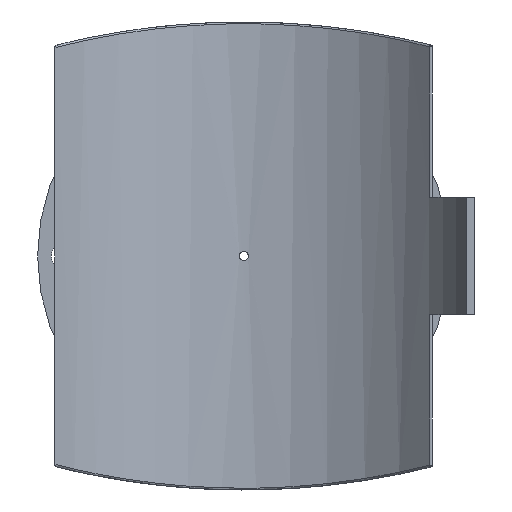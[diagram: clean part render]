
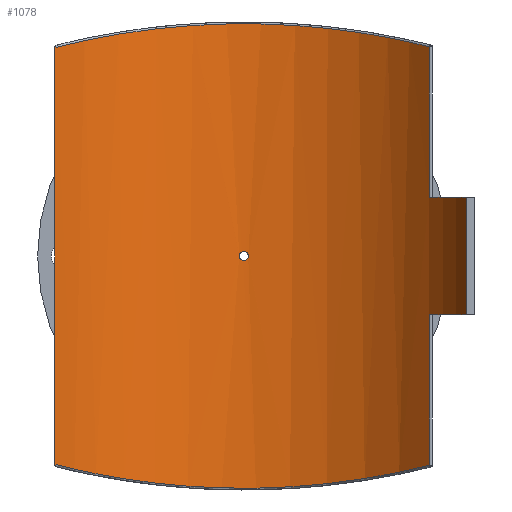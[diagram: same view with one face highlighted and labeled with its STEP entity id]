
A CAD part, front view. The second image highlights one B-rep face of the part: STEP entity #1078.
In plain terms, the highlighted cylindrical face has radius 280 mm (diameter 560 mm), a partial arc.
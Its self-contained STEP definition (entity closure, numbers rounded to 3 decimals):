
#55=FACE_BOUND('',#355,.T.);
#109=B_SPLINE_CURVE_WITH_KNOTS('',3,(#2219,#2220,#2221,#2222,#2223,#2224,
#2225,#2226,#2227,#2228),.UNSPECIFIED.,.F.,.F.,(4,1,1,1,1,1,1,4),(-56.784,
-49.813,-42.842,-35.871,-28.9,
-21.929,-14.958,-7.987),.UNSPECIFIED.);
#110=B_SPLINE_CURVE_WITH_KNOTS('',3,(#2237,#2238,#2239,#2240,#2241,#2242,
#2243,#2244,#2245,#2246),.UNSPECIFIED.,.F.,.F.,(4,1,1,1,1,1,1,4),(-54.351,
-47.38,-40.409,-33.438,-26.467,
-19.496,-12.525,-5.554),.UNSPECIFIED.);
#111=B_SPLINE_CURVE_WITH_KNOTS('',3,(#2249,#2250,#2251,#2252,#2253,#2254,
#2255,#2256,#2257,#2258),.UNSPECIFIED.,.F.,.F.,(4,2,2,2,4),(0.,0.196,
0.392,0.588,0.784),.UNSPECIFIED.);
#112=B_SPLINE_CURVE_WITH_KNOTS('',3,(#2259,#2260,#2261,#2262,#2263,#2264,
#2265,#2266,#2267,#2268,#2269,#2270,#2271,#2272,#2273,#2274,#2275,#2276,
#2277,#2278,#2279,#2280,#2281,#2282,#2283,#2284),.UNSPECIFIED.,.F.,.F.,
(4,2,2,2,2,2,2,2,2,2,2,2,4),(0.784,0.979,1.175,
1.371,1.567,1.763,1.959,2.155,
2.351,2.546,2.742,2.938,3.134),
 .UNSPECIFIED.);
#133=LINE('',#1615,#184);
#144=LINE('',#1907,#195);
#151=LINE('',#2233,#202);
#152=LINE('',#2236,#203);
#184=VECTOR('',#1292,10.);
#195=VECTOR('',#1331,10.);
#202=VECTOR('',#1368,10.);
#203=VECTOR('',#1371,10.);
#244=CYLINDRICAL_SURFACE('',#1175,280.);
#288=FACE_OUTER_BOUND('',#354,.T.);
#354=EDGE_LOOP('',(#839,#840,#841,#842,#843,#844,#845,#846));
#355=EDGE_LOOP('',(#847,#848));
#449=CIRCLE('',#1176,280.);
#450=CIRCLE('',#1177,280.);
#510=VERTEX_POINT('',#1606);
#513=VERTEX_POINT('',#1613);
#533=VERTEX_POINT('',#1900);
#536=VERTEX_POINT('',#1905);
#549=VERTEX_POINT('',#2199);
#550=VERTEX_POINT('',#2230);
#551=VERTEX_POINT('',#2232);
#552=VERTEX_POINT('',#2235);
#553=VERTEX_POINT('',#2247);
#554=VERTEX_POINT('',#2248);
#613=EDGE_CURVE('',#513,#510,#133,.T.);
#643=EDGE_CURVE('',#536,#533,#144,.T.);
#666=EDGE_CURVE('',#549,#536,#109,.T.);
#667=EDGE_CURVE('',#550,#513,#449,.T.);
#668=EDGE_CURVE('',#550,#551,#151,.T.);
#669=EDGE_CURVE('',#533,#551,#450,.T.);
#670=EDGE_CURVE('',#552,#549,#152,.T.);
#671=EDGE_CURVE('',#510,#552,#110,.T.);
#672=EDGE_CURVE('',#553,#554,#111,.T.);
#673=EDGE_CURVE('',#554,#553,#112,.T.);
#839=ORIENTED_EDGE('',*,*,#667,.F.);
#840=ORIENTED_EDGE('',*,*,#668,.T.);
#841=ORIENTED_EDGE('',*,*,#669,.F.);
#842=ORIENTED_EDGE('',*,*,#643,.F.);
#843=ORIENTED_EDGE('',*,*,#666,.F.);
#844=ORIENTED_EDGE('',*,*,#670,.F.);
#845=ORIENTED_EDGE('',*,*,#671,.F.);
#846=ORIENTED_EDGE('',*,*,#613,.F.);
#847=ORIENTED_EDGE('',*,*,#672,.T.);
#848=ORIENTED_EDGE('',*,*,#673,.T.);
#1078=ADVANCED_FACE('',(#288,#55),#244,.F.);
#1175=AXIS2_PLACEMENT_3D('',#2229,#1364,#1365);
#1176=AXIS2_PLACEMENT_3D('',#2231,#1366,#1367);
#1177=AXIS2_PLACEMENT_3D('',#2234,#1369,#1370);
#1292=DIRECTION('',(0.,0.,-1.));
#1331=DIRECTION('',(0.,0.,-1.));
#1364=DIRECTION('center_axis',(0.,0.,1.));
#1365=DIRECTION('ref_axis',(-1.,0.,0.));
#1366=DIRECTION('center_axis',(0.,0.,1.));
#1367=DIRECTION('ref_axis',(-0.9,-0.436,0.));
#1368=DIRECTION('',(0.,0.,1.));
#1369=DIRECTION('center_axis',(0.,0.,-1.));
#1370=DIRECTION('ref_axis',(-0.9,-0.436,0.));
#1371=DIRECTION('',(0.,0.,1.));
#1606=CARTESIAN_POINT('',(210.248,184.921,-236.94));
#1613=CARTESIAN_POINT('',(210.248,184.921,-66.25));
#1615=CARTESIAN_POINT('',(210.248,184.921,0.));
#1900=CARTESIAN_POINT('',(210.248,184.921,66.25));
#1905=CARTESIAN_POINT('',(210.248,184.921,236.94));
#1907=CARTESIAN_POINT('',(210.248,184.921,0.));
#2199=CARTESIAN_POINT('',(-213.75,180.862,236.051));
#2219=CARTESIAN_POINT('Ctrl Pts',(-213.75,180.862,236.051));
#2220=CARTESIAN_POINT('Ctrl Pts',(-199.044,198.242,239.818));
#2221=CARTESIAN_POINT('Ctrl Pts',(-165.408,229.374,247.602));
#2222=CARTESIAN_POINT('Ctrl Pts',(-104.901,262.661,257.41));
#2223=CARTESIAN_POINT('Ctrl Pts',(-37.627,280.354,263.109));
#2224=CARTESIAN_POINT('Ctrl Pts',(32.179,281.036,263.337));
#2225=CARTESIAN_POINT('Ctrl Pts',(99.815,264.637,258.029));
#2226=CARTESIAN_POINT('Ctrl Pts',(160.985,232.503,248.472));
#2227=CARTESIAN_POINT('Ctrl Pts',(195.214,202.014,240.724));
#2228=CARTESIAN_POINT('Ctrl Pts',(210.248,184.921,236.94));
#2229=CARTESIAN_POINT('Origin',(0.,0.,0.));
#2230=CARTESIAN_POINT('',(252.016,122.016,-66.25));
#2231=CARTESIAN_POINT('Origin',(0.,0.,
-66.25));
#2232=CARTESIAN_POINT('',(252.016,122.016,66.25));
#2233=CARTESIAN_POINT('',(252.016,122.016,0.));
#2234=CARTESIAN_POINT('Origin',(0.,0.,
66.25));
#2235=CARTESIAN_POINT('',(-213.75,180.862,-236.051));
#2236=CARTESIAN_POINT('',(-213.75,180.862,0.));
#2237=CARTESIAN_POINT('Ctrl Pts',(210.248,184.921,-236.94));
#2238=CARTESIAN_POINT('Ctrl Pts',(195.214,202.014,-240.724));
#2239=CARTESIAN_POINT('Ctrl Pts',(160.985,232.503,-248.472));
#2240=CARTESIAN_POINT('Ctrl Pts',(99.816,264.638,-258.031));
#2241=CARTESIAN_POINT('Ctrl Pts',(32.179,281.034,-263.335));
#2242=CARTESIAN_POINT('Ctrl Pts',(-37.628,280.356,-263.111));
#2243=CARTESIAN_POINT('Ctrl Pts',(-104.9,262.659,-257.409));
#2244=CARTESIAN_POINT('Ctrl Pts',(-165.409,229.374,-247.602));
#2245=CARTESIAN_POINT('Ctrl Pts',(-199.044,198.242,-239.818));
#2246=CARTESIAN_POINT('Ctrl Pts',(-213.75,180.862,-236.051));
#2247=CARTESIAN_POINT('',(5.2,279.952,0.));
#2248=CARTESIAN_POINT('',(0.,280.,-5.2));
#2249=CARTESIAN_POINT('Ctrl Pts',(5.2,279.952,0.));
#2250=CARTESIAN_POINT('Ctrl Pts',(5.2,279.952,-0.653));
#2251=CARTESIAN_POINT('Ctrl Pts',(5.07,279.954,-1.349));
#2252=CARTESIAN_POINT('Ctrl Pts',(4.539,279.963,-2.631));
#2253=CARTESIAN_POINT('Ctrl Pts',(4.139,279.97,-3.215));
#2254=CARTESIAN_POINT('Ctrl Pts',(3.215,279.982,-4.139));
#2255=CARTESIAN_POINT('Ctrl Pts',(2.631,279.988,-4.539));
#2256=CARTESIAN_POINT('Ctrl Pts',(1.349,279.997,-5.07));
#2257=CARTESIAN_POINT('Ctrl Pts',(0.653,280.,-5.2));
#2258=CARTESIAN_POINT('Ctrl Pts',(0.,280.,-5.2));
#2259=CARTESIAN_POINT('Ctrl Pts',(0.,280.,-5.2));
#2260=CARTESIAN_POINT('Ctrl Pts',(-0.653,280.,-5.2));
#2261=CARTESIAN_POINT('Ctrl Pts',(-1.349,279.997,-5.07));
#2262=CARTESIAN_POINT('Ctrl Pts',(-2.631,279.988,-4.539));
#2263=CARTESIAN_POINT('Ctrl Pts',(-3.215,279.982,-4.139));
#2264=CARTESIAN_POINT('Ctrl Pts',(-4.139,279.97,-3.215));
#2265=CARTESIAN_POINT('Ctrl Pts',(-4.539,279.963,-2.631));
#2266=CARTESIAN_POINT('Ctrl Pts',(-5.07,279.954,-1.349));
#2267=CARTESIAN_POINT('Ctrl Pts',(-5.2,279.952,-0.653));
#2268=CARTESIAN_POINT('Ctrl Pts',(-5.2,279.952,0.653));
#2269=CARTESIAN_POINT('Ctrl Pts',(-5.07,279.954,1.349));
#2270=CARTESIAN_POINT('Ctrl Pts',(-4.539,279.963,2.631));
#2271=CARTESIAN_POINT('Ctrl Pts',(-4.139,279.97,3.215));
#2272=CARTESIAN_POINT('Ctrl Pts',(-3.215,279.982,4.139));
#2273=CARTESIAN_POINT('Ctrl Pts',(-2.631,279.988,4.539));
#2274=CARTESIAN_POINT('Ctrl Pts',(-1.349,279.997,5.07));
#2275=CARTESIAN_POINT('Ctrl Pts',(-0.653,280.,5.2));
#2276=CARTESIAN_POINT('Ctrl Pts',(0.653,280.,5.2));
#2277=CARTESIAN_POINT('Ctrl Pts',(1.349,279.997,5.07));
#2278=CARTESIAN_POINT('Ctrl Pts',(2.631,279.988,4.539));
#2279=CARTESIAN_POINT('Ctrl Pts',(3.215,279.982,4.139));
#2280=CARTESIAN_POINT('Ctrl Pts',(4.139,279.97,3.215));
#2281=CARTESIAN_POINT('Ctrl Pts',(4.539,279.963,2.631));
#2282=CARTESIAN_POINT('Ctrl Pts',(5.07,279.954,1.349));
#2283=CARTESIAN_POINT('Ctrl Pts',(5.2,279.952,0.653));
#2284=CARTESIAN_POINT('Ctrl Pts',(5.2,279.952,0.));
